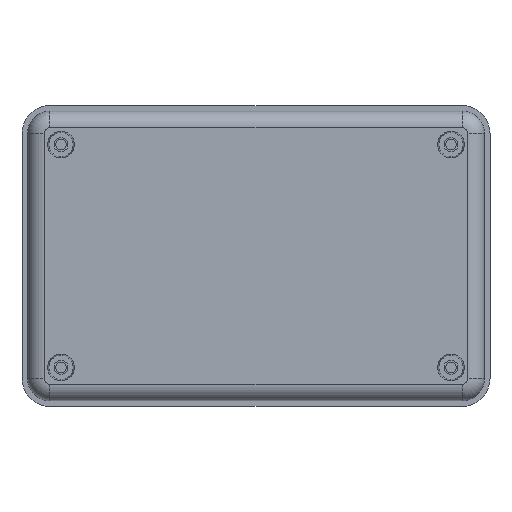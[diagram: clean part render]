
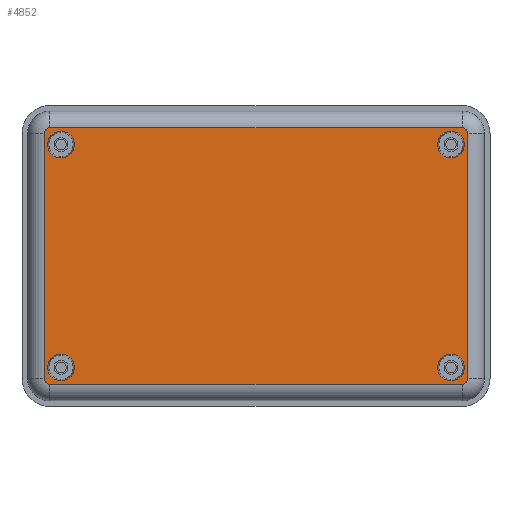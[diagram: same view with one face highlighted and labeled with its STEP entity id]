
A CAD part, front view. The second image highlights one B-rep face of the part: STEP entity #4852.
In plain terms, the highlighted planar face has unit normal (0, -1, 0).
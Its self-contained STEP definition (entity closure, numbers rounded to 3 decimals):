
#29 = EDGE_CURVE ( 'NONE', #8612, #3154, #9159, .T. ) ;
#227 = ORIENTED_EDGE ( 'NONE', *, *, #7599, .F. ) ;
#283 = CARTESIAN_POINT ( 'NONE',  ( -35., -3., 22.4 ) ) ;
#335 = VERTEX_POINT ( 'NONE', #1003 ) ;
#363 = CIRCLE ( 'NONE', #2577, 0.996 ) ;
#385 = CARTESIAN_POINT ( 'NONE',  ( -35., -3., -22.4 ) ) ;
#401 = DIRECTION ( 'NONE',  ( 0., -1., 0. ) ) ;
#620 = DIRECTION ( 'NONE',  ( 0., 0., -1. ) ) ;
#832 = CARTESIAN_POINT ( 'NONE',  ( -37., -3., -22. ) ) ;
#968 = CARTESIAN_POINT ( 'NONE',  ( -35., -3., 20. ) ) ;
#1003 = CARTESIAN_POINT ( 'NONE',  ( 37., -3., -22.996 ) ) ;
#1055 = DIRECTION ( 'NONE',  ( -1., 0., 0. ) ) ;
#1104 = ORIENTED_EDGE ( 'NONE', *, *, #6153, .F. ) ;
#1242 = EDGE_LOOP ( 'NONE', ( #6186, #8491, #2131, #3755, #6266, #8694, #4883, #1849 ) ) ;
#1327 = AXIS2_PLACEMENT_3D ( 'NONE', #2429, #7668, #3188 ) ;
#1345 = DIRECTION ( 'NONE',  ( 0., 1., 0. ) ) ;
#1435 = ORIENTED_EDGE ( 'NONE', *, *, #7484, .F. ) ;
#1466 = CARTESIAN_POINT ( 'NONE',  ( -37.996, -3., 22. ) ) ;
#1467 = EDGE_LOOP ( 'NONE', ( #1435, #1591 ) ) ;
#1549 = VERTEX_POINT ( 'NONE', #1466 ) ;
#1573 = ORIENTED_EDGE ( 'NONE', *, *, #4411, .F. ) ;
#1577 = DIRECTION ( 'NONE',  ( 0., 0., 1. ) ) ;
#1591 = ORIENTED_EDGE ( 'NONE', *, *, #7292, .F. ) ;
#1721 = DIRECTION ( 'NONE',  ( 0., 0., -1. ) ) ;
#1728 = FACE_BOUND ( 'NONE', #4531, .T. ) ;
#1846 = CARTESIAN_POINT ( 'NONE',  ( 37.996, -3., -22. ) ) ;
#1849 = ORIENTED_EDGE ( 'NONE', *, *, #3628, .T. ) ;
#2040 = CARTESIAN_POINT ( 'NONE',  ( -35., -3., -20. ) ) ;
#2061 = AXIS2_PLACEMENT_3D ( 'NONE', #2269, #7501, #3019 ) ;
#2131 = ORIENTED_EDGE ( 'NONE', *, *, #5339, .T. ) ;
#2185 = DIRECTION ( 'NONE',  ( 0., -1., 0. ) ) ;
#2199 = CARTESIAN_POINT ( 'NONE',  ( 35., -3., 20. ) ) ;
#2269 = CARTESIAN_POINT ( 'NONE',  ( -35., -3., -20. ) ) ;
#2271 = CIRCLE ( 'NONE', #8635, 2.4 ) ;
#2334 = CIRCLE ( 'NONE', #1327, 2.4 ) ;
#2429 = CARTESIAN_POINT ( 'NONE',  ( 35., -3., -20. ) ) ;
#2443 = EDGE_LOOP ( 'NONE', ( #4897, #1104 ) ) ;
#2577 = AXIS2_PLACEMENT_3D ( 'NONE', #6664, #2185, #7409 ) ;
#2773 = DIRECTION ( 'NONE',  ( 0., 0., 1. ) ) ;
#2804 = DIRECTION ( 'NONE',  ( 0., 0., -1. ) ) ;
#2816 = CARTESIAN_POINT ( 'NONE',  ( 35., -3., 17.6 ) ) ;
#2840 = EDGE_CURVE ( 'NONE', #5495, #5744, #4350, .T. ) ;
#2857 = CARTESIAN_POINT ( 'NONE',  ( 35., -3., 22.4 ) ) ;
#2945 = DIRECTION ( 'NONE',  ( 0., 0., -1. ) ) ;
#2972 = EDGE_CURVE ( 'NONE', #8621, #4310, #3642, .T. ) ;
#2993 = EDGE_CURVE ( 'NONE', #7098, #7460, #5371, .T. ) ;
#2994 = VERTEX_POINT ( 'NONE', #385 ) ;
#3006 = EDGE_LOOP ( 'NONE', ( #9317, #227 ) ) ;
#3019 = DIRECTION ( 'NONE',  ( 0., 0., -1. ) ) ;
#3125 = CIRCLE ( 'NONE', #5876, 0.996 ) ;
#3153 = DIRECTION ( 'NONE',  ( 0., -1., 0. ) ) ;
#3154 = VERTEX_POINT ( 'NONE', #9556 ) ;
#3188 = DIRECTION ( 'NONE',  ( 0., 0., -1. ) ) ;
#3333 = CARTESIAN_POINT ( 'NONE',  ( -37., -3., 22.996 ) ) ;
#3399 = CARTESIAN_POINT ( 'NONE',  ( -35., -3., 20. ) ) ;
#3411 = EDGE_CURVE ( 'NONE', #335, #8612, #363, .T. ) ;
#3415 = VECTOR ( 'NONE', #1055, 1000. ) ;
#3628 = EDGE_CURVE ( 'NONE', #5744, #335, #3983, .T. ) ;
#3642 = LINE ( 'NONE', #3333, #3415 ) ;
#3730 = FACE_BOUND ( 'NONE', #1467, .T. ) ;
#3755 = ORIENTED_EDGE ( 'NONE', *, *, #2972, .T. ) ;
#3760 = DIRECTION ( 'NONE',  ( 0., -1., 0. ) ) ;
#3765 = CARTESIAN_POINT ( 'NONE',  ( -37., -3., 22.996 ) ) ;
#3777 = CIRCLE ( 'NONE', #2061, 2.4 ) ;
#3953 = AXIS2_PLACEMENT_3D ( 'NONE', #832, #6060, #1577 ) ;
#3983 = LINE ( 'NONE', #4635, #5975 ) ;
#4137 = DIRECTION ( 'NONE',  ( 0., 0., -1. ) ) ;
#4296 = ORIENTED_EDGE ( 'NONE', *, *, #2993, .F. ) ;
#4310 = VERTEX_POINT ( 'NONE', #3765 ) ;
#4337 = CARTESIAN_POINT ( 'NONE',  ( 35., -3., -22.4 ) ) ;
#4350 = CIRCLE ( 'NONE', #3953, 0.996 ) ;
#4411 = EDGE_CURVE ( 'NONE', #7460, #7098, #5024, .T. ) ;
#4531 = EDGE_LOOP ( 'NONE', ( #1573, #4296 ) ) ;
#4535 = AXIS2_PLACEMENT_3D ( 'NONE', #968, #6203, #1721 ) ;
#4598 = EDGE_CURVE ( 'NONE', #9414, #6741, #2334, .T. ) ;
#4635 = CARTESIAN_POINT ( 'NONE',  ( 37., -3., -22.996 ) ) ;
#4852 = ADVANCED_FACE ( 'NONE', ( #3730, #9458, #8747, #1728, #7487 ), #9549, .F. ) ;
#4879 = CARTESIAN_POINT ( 'NONE',  ( -37., -3., 22. ) ) ;
#4883 = ORIENTED_EDGE ( 'NONE', *, *, #2840, .T. ) ;
#4897 = ORIENTED_EDGE ( 'NONE', *, *, #6775, .F. ) ;
#4950 = CIRCLE ( 'NONE', #9253, 2.4 ) ;
#5024 = CIRCLE ( 'NONE', #4535, 2.4 ) ;
#5060 = CARTESIAN_POINT ( 'NONE',  ( -37., -3., -22.996 ) ) ;
#5084 = DIRECTION ( 'NONE',  ( 0., -1., 0. ) ) ;
#5170 = CARTESIAN_POINT ( 'NONE',  ( -35., -3., -17.6 ) ) ;
#5190 = VERTEX_POINT ( 'NONE', #2857 ) ;
#5204 = CARTESIAN_POINT ( 'NONE',  ( -35., -3., 17.6 ) ) ;
#5237 = AXIS2_PLACEMENT_3D ( 'NONE', #7310, #1345, #6581 ) ;
#5339 = EDGE_CURVE ( 'NONE', #3154, #8621, #7946, .T. ) ;
#5371 = CIRCLE ( 'NONE', #6453, 2.4 ) ;
#5495 = VERTEX_POINT ( 'NONE', #8431 ) ;
#5555 = AXIS2_PLACEMENT_3D ( 'NONE', #7627, #3153, #8373 ) ;
#5611 = DIRECTION ( 'NONE',  ( 0., 0., 1. ) ) ;
#5712 = VERTEX_POINT ( 'NONE', #2816 ) ;
#5744 = VERTEX_POINT ( 'NONE', #5060 ) ;
#5876 = AXIS2_PLACEMENT_3D ( 'NONE', #4879, #401, #5611 ) ;
#5975 = VECTOR ( 'NONE', #6874, 1000. ) ;
#5996 = AXIS2_PLACEMENT_3D ( 'NONE', #9558, #5084, #620 ) ;
#6013 = CIRCLE ( 'NONE', #5996, 2.4 ) ;
#6060 = DIRECTION ( 'NONE',  ( 0., -1., 0. ) ) ;
#6064 = VECTOR ( 'NONE', #7168, 1000. ) ;
#6153 = EDGE_CURVE ( 'NONE', #5190, #5712, #6013, .T. ) ;
#6186 = ORIENTED_EDGE ( 'NONE', *, *, #3411, .T. ) ;
#6203 = DIRECTION ( 'NONE',  ( 0., -1., 0. ) ) ;
#6266 = ORIENTED_EDGE ( 'NONE', *, *, #7800, .T. ) ;
#6410 = CARTESIAN_POINT ( 'NONE',  ( -37.996, -3., -22. ) ) ;
#6453 = AXIS2_PLACEMENT_3D ( 'NONE', #3399, #8617, #4137 ) ;
#6534 = LINE ( 'NONE', #6410, #6064 ) ;
#6581 = DIRECTION ( 'NONE',  ( 0., 0., 1. ) ) ;
#6584 = CIRCLE ( 'NONE', #5555, 2.4 ) ;
#6664 = CARTESIAN_POINT ( 'NONE',  ( 37., -3., -22. ) ) ;
#6741 = VERTEX_POINT ( 'NONE', #8859 ) ;
#6775 = EDGE_CURVE ( 'NONE', #5712, #5190, #2271, .T. ) ;
#6874 = DIRECTION ( 'NONE',  ( 1., 0., 0. ) ) ;
#7056 = AXIS2_PLACEMENT_3D ( 'NONE', #8239, #3760, #8983 ) ;
#7098 = VERTEX_POINT ( 'NONE', #283 ) ;
#7168 = DIRECTION ( 'NONE',  ( 0., 0., -1. ) ) ;
#7281 = DIRECTION ( 'NONE',  ( 0., -1., 0. ) ) ;
#7292 = EDGE_CURVE ( 'NONE', #7395, #2994, #4950, .T. ) ;
#7310 = CARTESIAN_POINT ( 'NONE',  ( 37., -3., 22. ) ) ;
#7395 = VERTEX_POINT ( 'NONE', #5170 ) ;
#7409 = DIRECTION ( 'NONE',  ( 0., 0., 1. ) ) ;
#7427 = DIRECTION ( 'NONE',  ( 0., -1., 0. ) ) ;
#7460 = VERTEX_POINT ( 'NONE', #5204 ) ;
#7484 = EDGE_CURVE ( 'NONE', #2994, #7395, #3777, .T. ) ;
#7487 = FACE_OUTER_BOUND ( 'NONE', #1242, .T. ) ;
#7501 = DIRECTION ( 'NONE',  ( 0., -1., 0. ) ) ;
#7599 = EDGE_CURVE ( 'NONE', #6741, #9414, #6584, .T. ) ;
#7627 = CARTESIAN_POINT ( 'NONE',  ( 35., -3., -20. ) ) ;
#7668 = DIRECTION ( 'NONE',  ( 0., -1., 0. ) ) ;
#7800 = EDGE_CURVE ( 'NONE', #4310, #1549, #3125, .T. ) ;
#7946 = CIRCLE ( 'NONE', #7056, 0.996 ) ;
#8239 = CARTESIAN_POINT ( 'NONE',  ( 37., -3., 22. ) ) ;
#8373 = DIRECTION ( 'NONE',  ( 0., 0., -1. ) ) ;
#8431 = CARTESIAN_POINT ( 'NONE',  ( -37.996, -3., -22. ) ) ;
#8491 = ORIENTED_EDGE ( 'NONE', *, *, #29, .T. ) ;
#8592 = CARTESIAN_POINT ( 'NONE',  ( 37., -3., 22.996 ) ) ;
#8612 = VERTEX_POINT ( 'NONE', #1846 ) ;
#8617 = DIRECTION ( 'NONE',  ( 0., -1., 0. ) ) ;
#8621 = VERTEX_POINT ( 'NONE', #8592 ) ;
#8635 = AXIS2_PLACEMENT_3D ( 'NONE', #2199, #7427, #2945 ) ;
#8694 = ORIENTED_EDGE ( 'NONE', *, *, #9653, .T. ) ;
#8745 = CARTESIAN_POINT ( 'NONE',  ( 37.996, -3., 22. ) ) ;
#8747 = FACE_BOUND ( 'NONE', #2443, .T. ) ;
#8859 = CARTESIAN_POINT ( 'NONE',  ( 35., -3., -17.6 ) ) ;
#8932 = VECTOR ( 'NONE', #2773, 1000. ) ;
#8983 = DIRECTION ( 'NONE',  ( 0., 0., 1. ) ) ;
#9159 = LINE ( 'NONE', #8745, #8932 ) ;
#9253 = AXIS2_PLACEMENT_3D ( 'NONE', #2040, #7281, #2804 ) ;
#9317 = ORIENTED_EDGE ( 'NONE', *, *, #4598, .F. ) ;
#9414 = VERTEX_POINT ( 'NONE', #4337 ) ;
#9458 = FACE_BOUND ( 'NONE', #3006, .T. ) ;
#9549 = PLANE ( 'NONE',  #5237 ) ;
#9556 = CARTESIAN_POINT ( 'NONE',  ( 37.996, -3., 22. ) ) ;
#9558 = CARTESIAN_POINT ( 'NONE',  ( 35., -3., 20. ) ) ;
#9653 = EDGE_CURVE ( 'NONE', #1549, #5495, #6534, .T. ) ;
